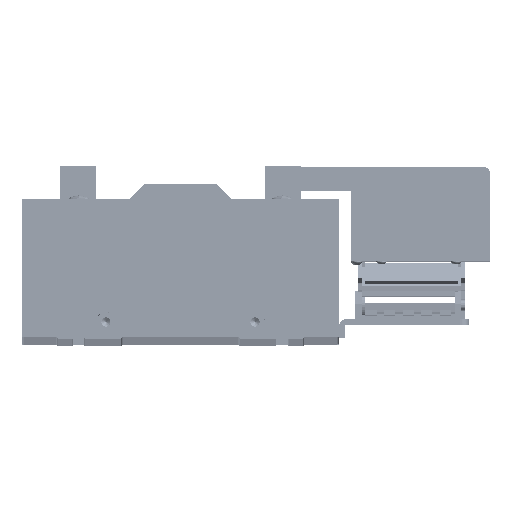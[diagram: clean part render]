
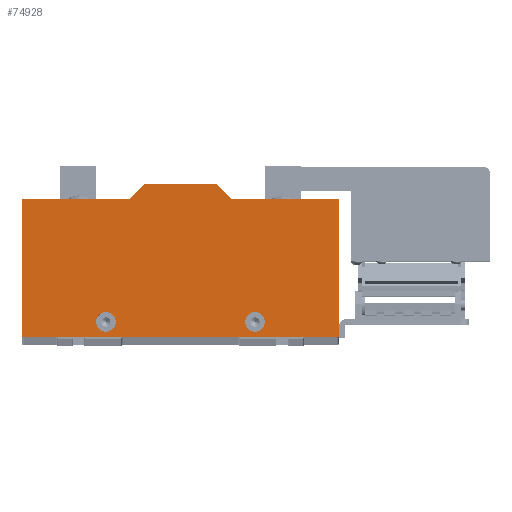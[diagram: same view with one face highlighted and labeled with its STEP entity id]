
A CAD part, top view. The second image highlights one B-rep face of the part: STEP entity #74928.
In plain terms, the highlighted planar face has unit normal (0, 0, 1).
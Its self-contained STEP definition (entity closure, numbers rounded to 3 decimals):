
#1358 = CIRCLE ( 'NONE', #153261, 5.25 ) ;
#12176 = CARTESIAN_POINT ( 'NONE',  ( -34.75, -29., 9.525 ) ) ;
#12180 = CARTESIAN_POINT ( 'NONE',  ( -45.25, -29., 9.525 ) ) ;
#13032 = VECTOR ( 'NONE', #13154, 1000. ) ;
#13154 = DIRECTION ( 'NONE',  ( -1., 0., 0. ) ) ;
#13737 = CARTESIAN_POINT ( 'NONE',  ( -19.5, 45., 9.525 ) ) ;
#13738 = LINE ( 'NONE', #13737, #13032 ) ;
#13927 = CARTESIAN_POINT ( 'NONE',  ( -19.5, 45., 9.525 ) ) ;
#23955 = DIRECTION ( 'NONE',  ( -1., 0., 0. ) ) ;
#23963 = VECTOR ( 'NONE', #23955, 1000. ) ;
#23980 = DIRECTION ( 'NONE',  ( -0.707, -0.707, 0. ) ) ;
#26991 = CARTESIAN_POINT ( 'NONE',  ( -85., 37., 9.525 ) ) ;
#26993 = LINE ( 'NONE', #26991, #23963 ) ;
#27016 = CARTESIAN_POINT ( 'NONE',  ( -27.5, 37., 9.525 ) ) ;
#30422 = DIRECTION ( 'NONE',  ( 0., -1., 0. ) ) ;
#30442 = VECTOR ( 'NONE', #30422, 1000. ) ;
#30481 = CARTESIAN_POINT ( 'NONE',  ( -85., 37., 9.525 ) ) ;
#30579 = LINE ( 'NONE', #30481, #30442 ) ;
#31103 = CIRCLE ( 'NONE', #31431, 5.25 ) ;
#31121 = DIRECTION ( 'NONE',  ( 1., 0., 0. ) ) ;
#31183 = CARTESIAN_POINT ( 'NONE',  ( 19.5, 45., 9.525 ) ) ;
#31332 = CARTESIAN_POINT ( 'NONE',  ( -40., -29., 9.525 ) ) ;
#31336 = VECTOR ( 'NONE', #23980, 1000. ) ;
#31338 = CARTESIAN_POINT ( 'NONE',  ( -27.5, 37., 9.525 ) ) ;
#31340 = LINE ( 'NONE', #31338, #31336 ) ;
#31365 = DIRECTION ( 'NONE',  ( 0., 0., 1. ) ) ;
#31431 = AXIS2_PLACEMENT_3D ( 'NONE', #31332, #31365, #31121 ) ;
#70225 = AXIS2_PLACEMENT_3D ( 'NONE', #70253, #70251, #70250 ) ;
#70227 = CIRCLE ( 'NONE', #70225, 5.25 ) ;
#70239 = CARTESIAN_POINT ( 'NONE',  ( -85., -37., 9.525 ) ) ;
#70250 = DIRECTION ( 'NONE',  ( 1., 0., 0. ) ) ;
#70251 = DIRECTION ( 'NONE',  ( 0., 0., 1. ) ) ;
#70253 = CARTESIAN_POINT ( 'NONE',  ( 40., -29., 9.525 ) ) ;
#70290 = CARTESIAN_POINT ( 'NONE',  ( 85., -37., 9.525 ) ) ;
#70781 = CARTESIAN_POINT ( 'NONE',  ( 85., 37., 9.525 ) ) ;
#70789 = LINE ( 'NONE', #70781, #70904 ) ;
#70856 = DIRECTION ( 'NONE',  ( 0., 1., 0. ) ) ;
#70894 = CARTESIAN_POINT ( 'NONE',  ( 85., 37., 9.525 ) ) ;
#70904 = VECTOR ( 'NONE', #70856, 1000. ) ;
#74446 = EDGE_CURVE ( 'NONE', #74454, #74449, #103740, .T. ) ;
#74449 = VERTEX_POINT ( 'NONE', #70290 ) ;
#74454 = VERTEX_POINT ( 'NONE', #70239 ) ;
#74455 = EDGE_CURVE ( 'NONE', #75007, #75005, #70227, .T. ) ;
#74460 = VERTEX_POINT ( 'NONE', #70894 ) ;
#74462 = EDGE_CURVE ( 'NONE', #74449, #74460, #70789, .T. ) ;
#74827 = ORIENTED_EDGE ( 'NONE', *, *, #75164, .T. ) ;
#74828 = ORIENTED_EDGE ( 'NONE', *, *, #75178, .T. ) ;
#74924 = EDGE_LOOP ( 'NONE', ( #74934, #75173, #75174, #75142, #75143, #75145, #74827, #74828 ) ) ;
#74928 = ADVANCED_FACE ( 'NONE', ( #117923, #118101, #118100 ), #117831, .T. ) ;
#74930 = ORIENTED_EDGE ( 'NONE', *, *, #75130, .F. ) ;
#74933 = ORIENTED_EDGE ( 'NONE', *, *, #74455, .F. ) ;
#74934 = ORIENTED_EDGE ( 'NONE', *, *, #75183, .T. ) ;
#74936 = ORIENTED_EDGE ( 'NONE', *, *, #74939, .F. ) ;
#74939 = EDGE_CURVE ( 'NONE', #75005, #75007, #117726, .T. ) ;
#74999 = VERTEX_POINT ( 'NONE', #118507 ) ;
#75005 = VERTEX_POINT ( 'NONE', #118113 ) ;
#75007 = VERTEX_POINT ( 'NONE', #118152 ) ;
#75018 = EDGE_CURVE ( 'NONE', #74460, #75043, #118270, .T. ) ;
#75031 = EDGE_CURVE ( 'NONE', #75043, #75155, #121119, .T. ) ;
#75035 = EDGE_LOOP ( 'NONE', ( #74930, #75131 ) ) ;
#75043 = VERTEX_POINT ( 'NONE', #121051 ) ;
#75124 = VERTEX_POINT ( 'NONE', #13927 ) ;
#75125 = EDGE_CURVE ( 'NONE', #75155, #75124, #13738, .T. ) ;
#75130 = EDGE_CURVE ( 'NONE', #75334, #75344, #31103, .T. ) ;
#75131 = ORIENTED_EDGE ( 'NONE', *, *, #75328, .F. ) ;
#75132 = EDGE_LOOP ( 'NONE', ( #74936, #74933 ) ) ;
#75142 = ORIENTED_EDGE ( 'NONE', *, *, #75018, .T. ) ;
#75143 = ORIENTED_EDGE ( 'NONE', *, *, #75031, .T. ) ;
#75145 = ORIENTED_EDGE ( 'NONE', *, *, #75125, .T. ) ;
#75155 = VERTEX_POINT ( 'NONE', #31183 ) ;
#75164 = EDGE_CURVE ( 'NONE', #75124, #75171, #31340, .T. ) ;
#75171 = VERTEX_POINT ( 'NONE', #27016 ) ;
#75173 = ORIENTED_EDGE ( 'NONE', *, *, #74446, .T. ) ;
#75174 = ORIENTED_EDGE ( 'NONE', *, *, #74462, .T. ) ;
#75178 = EDGE_CURVE ( 'NONE', #75171, #74999, #26993, .T. ) ;
#75183 = EDGE_CURVE ( 'NONE', #74999, #74454, #30579, .T. ) ;
#75328 = EDGE_CURVE ( 'NONE', #75344, #75334, #1358, .T. ) ;
#75334 = VERTEX_POINT ( 'NONE', #12176 ) ;
#75344 = VERTEX_POINT ( 'NONE', #12180 ) ;
#103737 = DIRECTION ( 'NONE',  ( 1., 0., 0. ) ) ;
#103738 = VECTOR ( 'NONE', #103737, 1000. ) ;
#103739 = CARTESIAN_POINT ( 'NONE',  ( -85., -37., 9.525 ) ) ;
#103740 = LINE ( 'NONE', #103739, #103738 ) ;
#115234 = DIRECTION ( 'NONE',  ( -1., 0., 0. ) ) ;
#115480 = VECTOR ( 'NONE', #115234, 1000. ) ;
#115590 = CARTESIAN_POINT ( 'NONE',  ( 27.5, 37., 9.525 ) ) ;
#117726 = CIRCLE ( 'NONE', #118038, 5.25 ) ;
#117734 = DIRECTION ( 'NONE',  ( 1., 0., 0. ) ) ;
#117735 = DIRECTION ( 'NONE',  ( 0., 0., 1. ) ) ;
#117737 = CARTESIAN_POINT ( 'NONE',  ( -85., 37., 9.525 ) ) ;
#117830 = AXIS2_PLACEMENT_3D ( 'NONE', #117737, #117735, #117734 ) ;
#117831 = PLANE ( 'NONE',  #117830 ) ;
#117833 = CARTESIAN_POINT ( 'NONE',  ( 40., -29., 9.525 ) ) ;
#117923 = FACE_BOUND ( 'NONE', #75035, .T. ) ;
#118036 = DIRECTION ( 'NONE',  ( 1., 0., 0. ) ) ;
#118037 = DIRECTION ( 'NONE',  ( 0., 0., 1. ) ) ;
#118038 = AXIS2_PLACEMENT_3D ( 'NONE', #117833, #118037, #118036 ) ;
#118100 = FACE_OUTER_BOUND ( 'NONE', #74924, .T. ) ;
#118101 = FACE_BOUND ( 'NONE', #75132, .T. ) ;
#118113 = CARTESIAN_POINT ( 'NONE',  ( 45.25, -29., 9.525 ) ) ;
#118152 = CARTESIAN_POINT ( 'NONE',  ( 34.75, -29., 9.525 ) ) ;
#118270 = LINE ( 'NONE', #115590, #115480 ) ;
#118507 = CARTESIAN_POINT ( 'NONE',  ( -85., 37., 9.525 ) ) ;
#120900 = CARTESIAN_POINT ( 'NONE',  ( 19.5, 45., 9.525 ) ) ;
#121051 = CARTESIAN_POINT ( 'NONE',  ( 27.5, 37., 9.525 ) ) ;
#121119 = LINE ( 'NONE', #120900, #121181 ) ;
#121179 = DIRECTION ( 'NONE',  ( -0.707, 0.707, 0. ) ) ;
#121181 = VECTOR ( 'NONE', #121179, 1000. ) ;
#153257 = CARTESIAN_POINT ( 'NONE',  ( -40., -29., 9.525 ) ) ;
#153261 = AXIS2_PLACEMENT_3D ( 'NONE', #153257, #153842, #153840 ) ;
#153840 = DIRECTION ( 'NONE',  ( 1., 0., 0. ) ) ;
#153842 = DIRECTION ( 'NONE',  ( 0., 0., 1. ) ) ;
